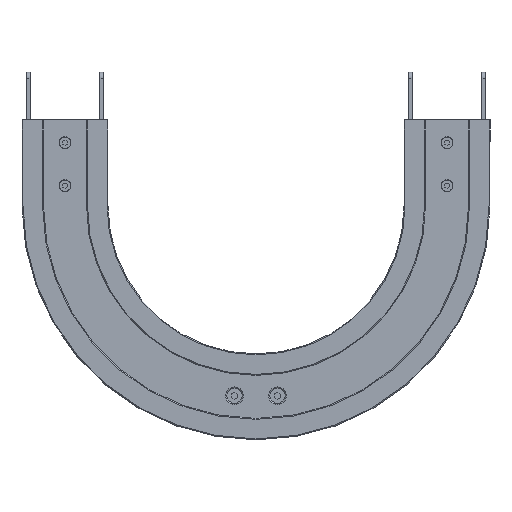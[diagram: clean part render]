
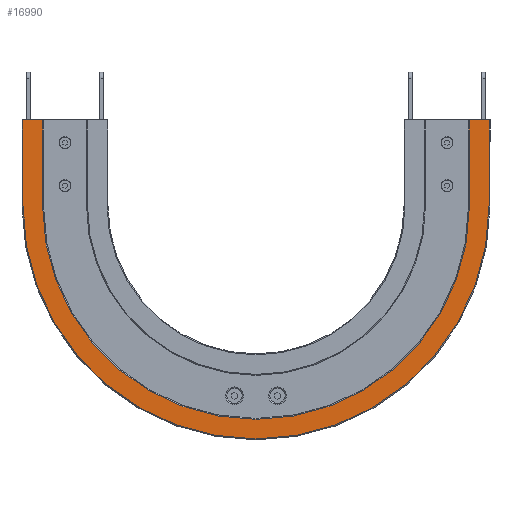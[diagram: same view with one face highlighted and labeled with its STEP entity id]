
A CAD part, front view. The second image highlights one B-rep face of the part: STEP entity #16990.
In plain terms, the highlighted planar face has unit normal (0, -1, 0) as drawn and (0, 1, 0) by its records, which use the part's own axes.
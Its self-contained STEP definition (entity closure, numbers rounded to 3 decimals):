
#34 = AXIS2_PLACEMENT_3D ( 'NONE', #11321, #6346, #7988 ) ;
#52 = DIRECTION ( 'NONE',  ( 1., 0., 0. ) ) ;
#103 = CARTESIAN_POINT ( 'NONE',  ( -44., 28., -90. ) ) ;
#655 = CARTESIAN_POINT ( 'NONE',  ( 444., 28., 0. ) ) ;
#763 = EDGE_CURVE ( 'NONE', #2245, #8809, #7722, .T. ) ;
#861 = VERTEX_POINT ( 'NONE', #5953 ) ;
#1599 = VECTOR ( 'NONE', #16576, 1000. ) ;
#1729 = ORIENTED_EDGE ( 'NONE', *, *, #7443, .F. ) ;
#2023 = DIRECTION ( 'NONE',  ( 0., 0., 1. ) ) ;
#2133 = CARTESIAN_POINT ( 'NONE',  ( -23.5, 28., -90. ) ) ;
#2212 = ORIENTED_EDGE ( 'NONE', *, *, #17556, .T. ) ;
#2245 = VERTEX_POINT ( 'NONE', #6794 ) ;
#3504 = EDGE_LOOP ( 'NONE', ( #6358, #6799, #17585, #4019, #20880, #1729, #6118, #16654, #2212 ) ) ;
#3658 = DIRECTION ( 'NONE',  ( 0., 1., 0. ) ) ;
#3759 = VERTEX_POINT ( 'NONE', #5940 ) ;
#3955 = EDGE_CURVE ( 'NONE', #3759, #11706, #16760, .T. ) ;
#3994 = CARTESIAN_POINT ( 'NONE',  ( -45., 28., 0. ) ) ;
#4019 = ORIENTED_EDGE ( 'NONE', *, *, #763, .T. ) ;
#4075 = DIRECTION ( 'NONE',  ( 0., 0., 1. ) ) ;
#4161 = LINE ( 'NONE', #16219, #20185 ) ;
#4285 = CARTESIAN_POINT ( 'NONE',  ( 200., 28., -90. ) ) ;
#4468 = DIRECTION ( 'NONE',  ( 0., 1., 0. ) ) ;
#4763 = CARTESIAN_POINT ( 'NONE',  ( 423.5, 28., 0. ) ) ;
#4856 = CARTESIAN_POINT ( 'NONE',  ( -23.5, 28., 0. ) ) ;
#5940 = CARTESIAN_POINT ( 'NONE',  ( -23.5, 28., -90. ) ) ;
#5953 = CARTESIAN_POINT ( 'NONE',  ( 444., 28., -90. ) ) ;
#6118 = ORIENTED_EDGE ( 'NONE', *, *, #7202, .T. ) ;
#6346 = DIRECTION ( 'NONE',  ( 0., -1., 0. ) ) ;
#6358 = ORIENTED_EDGE ( 'NONE', *, *, #18669, .T. ) ;
#6489 = VECTOR ( 'NONE', #20349, 1000. ) ;
#6794 = CARTESIAN_POINT ( 'NONE',  ( 200., 28., -334. ) ) ;
#6799 = ORIENTED_EDGE ( 'NONE', *, *, #7675, .T. ) ;
#7175 = LINE ( 'NONE', #11700, #10520 ) ;
#7202 = EDGE_CURVE ( 'NONE', #20352, #3759, #13048, .T. ) ;
#7443 = EDGE_CURVE ( 'NONE', #20352, #16752, #11273, .T. ) ;
#7525 = DIRECTION ( 'NONE',  ( 0., 1., 0. ) ) ;
#7675 = EDGE_CURVE ( 'NONE', #19400, #861, #7175, .T. ) ;
#7722 = CIRCLE ( 'NONE', #20216, 244. ) ;
#7988 = DIRECTION ( 'NONE',  ( 0., 0., 1. ) ) ;
#8809 = VERTEX_POINT ( 'NONE', #103 ) ;
#8933 = CARTESIAN_POINT ( 'NONE',  ( 423.5, 28., -90. ) ) ;
#9939 = CARTESIAN_POINT ( 'NONE',  ( -45., 28., -90. ) ) ;
#10520 = VECTOR ( 'NONE', #14830, 1000. ) ;
#11002 = CIRCLE ( 'NONE', #19747, 244. ) ;
#11153 = EDGE_CURVE ( 'NONE', #8809, #16752, #16183, .T. ) ;
#11273 = LINE ( 'NONE', #3994, #14817 ) ;
#11321 = CARTESIAN_POINT ( 'NONE',  ( 200., 28., -90. ) ) ;
#11700 = CARTESIAN_POINT ( 'NONE',  ( 444., 28., -90. ) ) ;
#11706 = VERTEX_POINT ( 'NONE', #8933 ) ;
#11717 = LINE ( 'NONE', #16426, #18364 ) ;
#13048 = LINE ( 'NONE', #2133, #1599 ) ;
#13086 = AXIS2_PLACEMENT_3D ( 'NONE', #9939, #3658, #2023 ) ;
#13258 = PLANE ( 'NONE',  #13086 ) ;
#13905 = CARTESIAN_POINT ( 'NONE',  ( -44., 28., -90. ) ) ;
#14173 = VERTEX_POINT ( 'NONE', #4763 ) ;
#14401 = CARTESIAN_POINT ( 'NONE',  ( 200., 28., -90. ) ) ;
#14724 = DIRECTION ( 'NONE',  ( 0., 0., 1. ) ) ;
#14817 = VECTOR ( 'NONE', #18966, 1000. ) ;
#14830 = DIRECTION ( 'NONE',  ( 0., 0., -1. ) ) ;
#15599 = FACE_OUTER_BOUND ( 'NONE', #3504, .T. ) ;
#15837 = DIRECTION ( 'NONE',  ( 0., 0., 1. ) ) ;
#16183 = LINE ( 'NONE', #13905, #6489 ) ;
#16219 = CARTESIAN_POINT ( 'NONE',  ( 423.5, 28., 0. ) ) ;
#16426 = CARTESIAN_POINT ( 'NONE',  ( 445., 28., 0. ) ) ;
#16576 = DIRECTION ( 'NONE',  ( 0., 0., -1. ) ) ;
#16654 = ORIENTED_EDGE ( 'NONE', *, *, #3955, .T. ) ;
#16752 = VERTEX_POINT ( 'NONE', #20726 ) ;
#16760 = CIRCLE ( 'NONE', #34, 223.5 ) ;
#16990 = ADVANCED_FACE ( 'NONE', ( #15599 ), #13258, .T. ) ;
#17556 = EDGE_CURVE ( 'NONE', #11706, #14173, #4161, .T. ) ;
#17585 = ORIENTED_EDGE ( 'NONE', *, *, #18905, .T. ) ;
#18364 = VECTOR ( 'NONE', #52, 1000. ) ;
#18669 = EDGE_CURVE ( 'NONE', #14173, #19400, #11717, .T. ) ;
#18905 = EDGE_CURVE ( 'NONE', #861, #2245, #11002, .T. ) ;
#18966 = DIRECTION ( 'NONE',  ( -1., 0., 0. ) ) ;
#19400 = VERTEX_POINT ( 'NONE', #655 ) ;
#19747 = AXIS2_PLACEMENT_3D ( 'NONE', #4285, #7525, #4075 ) ;
#20185 = VECTOR ( 'NONE', #14724, 1000. ) ;
#20216 = AXIS2_PLACEMENT_3D ( 'NONE', #14401, #4468, #15837 ) ;
#20349 = DIRECTION ( 'NONE',  ( 0., 0., 1. ) ) ;
#20352 = VERTEX_POINT ( 'NONE', #4856 ) ;
#20726 = CARTESIAN_POINT ( 'NONE',  ( -44., 28., 0. ) ) ;
#20880 = ORIENTED_EDGE ( 'NONE', *, *, #11153, .T. ) ;
